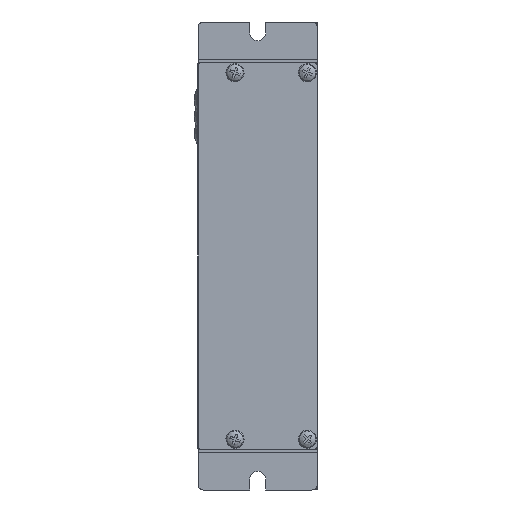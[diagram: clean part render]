
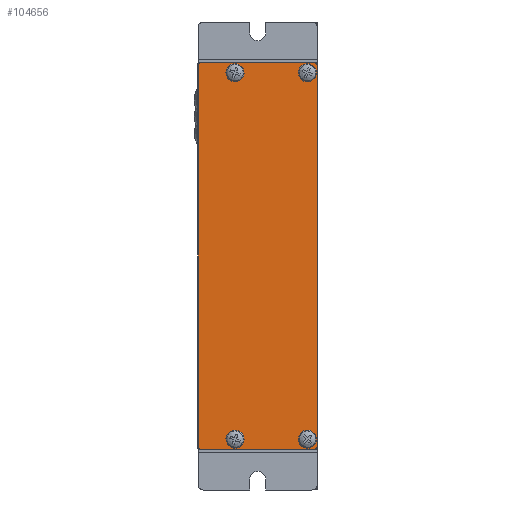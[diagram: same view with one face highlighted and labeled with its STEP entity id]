
A CAD part, left-side view. The second image highlights one B-rep face of the part: STEP entity #104656.
In plain terms, the highlighted planar face has unit normal (-1, 0, 0).
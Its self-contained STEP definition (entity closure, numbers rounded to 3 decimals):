
#2958 = ORIENTED_EDGE ( 'NONE', *, *, #60877, .T. ) ;
#4827 = FACE_BOUND ( 'NONE', #109588, .T. ) ;
#7255 = VERTEX_POINT ( 'NONE', #58329 ) ;
#7516 = DIRECTION ( 'NONE',  ( 0., -0.735, 0.678 ) ) ;
#10830 = VERTEX_POINT ( 'NONE', #19613 ) ;
#13800 = CARTESIAN_POINT ( 'NONE',  ( -12.545, -11.735, 73.54 ) ) ;
#13875 = LINE ( 'NONE', #106296, #100713 ) ;
#14937 = DIRECTION ( 'NONE',  ( -1., 0., 0. ) ) ;
#15426 = CARTESIAN_POINT ( 'NONE',  ( -12.545, 32.865, 73.54 ) ) ;
#15662 = EDGE_CURVE ( 'NONE', #139225, #111763, #28665, .T. ) ;
#15971 = DIRECTION ( 'NONE',  ( 1., 0., 0. ) ) ;
#16950 = CARTESIAN_POINT ( 'NONE',  ( -12.545, 32.865, 216.14 ) ) ;
#17381 = CARTESIAN_POINT ( 'NONE',  ( -12.545, 31.865, 216.14 ) ) ;
#19074 = ORIENTED_EDGE ( 'NONE', *, *, #144466, .T. ) ;
#19528 = CARTESIAN_POINT ( 'NONE',  ( -12.545, 19.065, 76.24 ) ) ;
#19613 = CARTESIAN_POINT ( 'NONE',  ( -12.545, 21.927, 214.623 ) ) ;
#23177 = VECTOR ( 'NONE', #94955, 1000. ) ;
#23504 = VERTEX_POINT ( 'NONE', #15426 ) ;
#23680 = CARTESIAN_POINT ( 'NONE',  ( -12.545, 10.565, 144.84 ) ) ;
#24436 = ORIENTED_EDGE ( 'NONE', *, *, #46909, .T. ) ;
#25464 = AXIS2_PLACEMENT_3D ( 'NONE', #104951, #142121, #117890 ) ;
#25561 = AXIS2_PLACEMENT_3D ( 'NONE', #19528, #55121, #31392 ) ;
#25648 = DIRECTION ( 'NONE',  ( 0., -1., 0. ) ) ;
#26882 = FACE_OUTER_BOUND ( 'NONE', #40928, .T. ) ;
#28665 = LINE ( 'NONE', #83052, #23177 ) ;
#28825 = FACE_BOUND ( 'NONE', #46419, .T. ) ;
#29930 = EDGE_CURVE ( 'NONE', #139225, #97029, #109027, .T. ) ;
#31392 = DIRECTION ( 'NONE',  ( 0., 0.924, 0.382 ) ) ;
#34186 = EDGE_CURVE ( 'NONE', #23504, #111763, #132047, .T. ) ;
#36998 = CARTESIAN_POINT ( 'NONE',  ( -12.545, -11.735, 216.14 ) ) ;
#37941 = CARTESIAN_POINT ( 'NONE',  ( -12.545, 32.865, 72.54 ) ) ;
#38723 = EDGE_CURVE ( 'NONE', #23504, #43039, #85271, .T. ) ;
#39965 = CARTESIAN_POINT ( 'NONE',  ( -12.545, -10.312, 78.341 ) ) ;
#40470 = DIRECTION ( 'NONE',  ( 0., 0., -1. ) ) ;
#40928 = EDGE_LOOP ( 'NONE', ( #46591, #104717, #54207, #52862, #151685, #76803, #98725, #24436 ) ) ;
#43039 = VERTEX_POINT ( 'NONE', #16950 ) ;
#44385 = LINE ( 'NONE', #76610, #134941 ) ;
#45424 = CIRCLE ( 'NONE', #108403, 1. ) ;
#45706 = DIRECTION ( 'NONE',  ( 0., 0., 1. ) ) ;
#46419 = EDGE_LOOP ( 'NONE', ( #19074 ) ) ;
#46591 = ORIENTED_EDGE ( 'NONE', *, *, #38723, .F. ) ;
#46898 = EDGE_CURVE ( 'NONE', #77494, #77494, #130657, .T. ) ;
#46909 = EDGE_CURVE ( 'NONE', #7255, #43039, #77006, .T. ) ;
#49435 = CARTESIAN_POINT ( 'NONE',  ( -12.545, -8.035, 213.44 ) ) ;
#52128 = EDGE_CURVE ( 'NONE', #150948, #97029, #44385, .T. ) ;
#52433 = DIRECTION ( 'NONE',  ( 0., 0., 1. ) ) ;
#52862 = ORIENTED_EDGE ( 'NONE', *, *, #29930, .T. ) ;
#54207 = ORIENTED_EDGE ( 'NONE', *, *, #15662, .F. ) ;
#54972 = DIRECTION ( 'NONE',  ( 1., 0., 0. ) ) ;
#55121 = DIRECTION ( 'NONE',  ( 1., 0., 0. ) ) ;
#58329 = CARTESIAN_POINT ( 'NONE',  ( -12.545, 31.865, 217.14 ) ) ;
#60877 = EDGE_CURVE ( 'NONE', #10830, #10830, #106775, .T. ) ;
#62131 = CARTESIAN_POINT ( 'NONE',  ( -12.545, 31.865, 72.54 ) ) ;
#62923 = EDGE_CURVE ( 'NONE', #150948, #76987, #45424, .T. ) ;
#64145 = VERTEX_POINT ( 'NONE', #120313 ) ;
#65340 = EDGE_LOOP ( 'NONE', ( #121368 ) ) ;
#68884 = DIRECTION ( 'NONE',  ( -1., 0., 0. ) ) ;
#69397 = FACE_BOUND ( 'NONE', #115971, .T. ) ;
#70871 = CARTESIAN_POINT ( 'NONE',  ( -12.545, 31.865, 73.54 ) ) ;
#72650 = DIRECTION ( 'NONE',  ( 0., 0.924, 0.382 ) ) ;
#73676 = DIRECTION ( 'NONE',  ( 1., 0., 0. ) ) ;
#73938 = CARTESIAN_POINT ( 'NONE',  ( -12.545, -10.735, 72.54 ) ) ;
#75307 = CARTESIAN_POINT ( 'NONE',  ( -12.545, 19.065, 213.44 ) ) ;
#76610 = CARTESIAN_POINT ( 'NONE',  ( -12.545, -11.735, 217.14 ) ) ;
#76803 = ORIENTED_EDGE ( 'NONE', *, *, #62923, .T. ) ;
#76987 = VERTEX_POINT ( 'NONE', #77853 ) ;
#77006 = CIRCLE ( 'NONE', #116120, 1. ) ;
#77494 = VERTEX_POINT ( 'NONE', #39965 ) ;
#77853 = CARTESIAN_POINT ( 'NONE',  ( -12.545, -10.735, 217.14 ) ) ;
#79860 = VECTOR ( 'NONE', #52433, 1000. ) ;
#81223 = AXIS2_PLACEMENT_3D ( 'NONE', #23680, #14937, #144611 ) ;
#81452 = EDGE_CURVE ( 'NONE', #7255, #76987, #13875, .T. ) ;
#81822 = DIRECTION ( 'NONE',  ( 0., 0., 1. ) ) ;
#83052 = CARTESIAN_POINT ( 'NONE',  ( -12.545, -11.735, 72.54 ) ) ;
#83781 = DIRECTION ( 'NONE',  ( -1., 0., 0. ) ) ;
#85271 = LINE ( 'NONE', #37941, #79860 ) ;
#88108 = VERTEX_POINT ( 'NONE', #121832 ) ;
#93414 = AXIS2_PLACEMENT_3D ( 'NONE', #75307, #15971, #111012 ) ;
#94955 = DIRECTION ( 'NONE',  ( 0., 1., 0. ) ) ;
#95964 = ORIENTED_EDGE ( 'NONE', *, *, #136734, .T. ) ;
#97029 = VERTEX_POINT ( 'NONE', #13800 ) ;
#98725 = ORIENTED_EDGE ( 'NONE', *, *, #81452, .F. ) ;
#99074 = FACE_BOUND ( 'NONE', #65340, .T. ) ;
#100713 = VECTOR ( 'NONE', #25648, 1000. ) ;
#104656 = ADVANCED_FACE ( 'NONE', ( #4827, #69397, #99074, #28825, #26882 ), #134248, .T. ) ;
#104717 = ORIENTED_EDGE ( 'NONE', *, *, #34186, .T. ) ;
#104951 = CARTESIAN_POINT ( 'NONE',  ( -12.545, -10.735, 73.54 ) ) ;
#106138 = DIRECTION ( 'NONE',  ( -1., 0., 0. ) ) ;
#106296 = CARTESIAN_POINT ( 'NONE',  ( -12.545, 32.865, 217.14 ) ) ;
#106775 = CIRCLE ( 'NONE', #93414, 3.097 ) ;
#108403 = AXIS2_PLACEMENT_3D ( 'NONE', #152139, #106138, #81822 ) ;
#109027 = CIRCLE ( 'NONE', #25464, 1. ) ;
#109588 = EDGE_LOOP ( 'NONE', ( #95964 ) ) ;
#111012 = DIRECTION ( 'NONE',  ( 0., 0.924, 0.382 ) ) ;
#111763 = VERTEX_POINT ( 'NONE', #62131 ) ;
#113966 = CARTESIAN_POINT ( 'NONE',  ( -12.545, -8.035, 76.24 ) ) ;
#115971 = EDGE_LOOP ( 'NONE', ( #2958 ) ) ;
#116120 = AXIS2_PLACEMENT_3D ( 'NONE', #17381, #68884, #45706 ) ;
#117890 = DIRECTION ( 'NONE',  ( 0., 0., 1. ) ) ;
#117988 = DIRECTION ( 'NONE',  ( 0., 0., 1. ) ) ;
#120313 = CARTESIAN_POINT ( 'NONE',  ( -12.545, -5.173, 214.623 ) ) ;
#121368 = ORIENTED_EDGE ( 'NONE', *, *, #46898, .T. ) ;
#121832 = CARTESIAN_POINT ( 'NONE',  ( -12.545, 21.927, 77.423 ) ) ;
#127944 = CIRCLE ( 'NONE', #25561, 3.097 ) ;
#128450 = AXIS2_PLACEMENT_3D ( 'NONE', #70871, #83781, #117988 ) ;
#130657 = CIRCLE ( 'NONE', #136873, 3.097 ) ;
#132047 = CIRCLE ( 'NONE', #128450, 1. ) ;
#134248 = PLANE ( 'NONE',  #81223 ) ;
#134941 = VECTOR ( 'NONE', #40470, 1000. ) ;
#136734 = EDGE_CURVE ( 'NONE', #64145, #64145, #139405, .T. ) ;
#136873 = AXIS2_PLACEMENT_3D ( 'NONE', #113966, #54972, #7516 ) ;
#138747 = AXIS2_PLACEMENT_3D ( 'NONE', #49435, #73676, #72650 ) ;
#139225 = VERTEX_POINT ( 'NONE', #73938 ) ;
#139405 = CIRCLE ( 'NONE', #138747, 3.097 ) ;
#142121 = DIRECTION ( 'NONE',  ( -1., 0., 0. ) ) ;
#144466 = EDGE_CURVE ( 'NONE', #88108, #88108, #127944, .T. ) ;
#144611 = DIRECTION ( 'NONE',  ( 0., 0., 1. ) ) ;
#150948 = VERTEX_POINT ( 'NONE', #36998 ) ;
#151685 = ORIENTED_EDGE ( 'NONE', *, *, #52128, .F. ) ;
#152139 = CARTESIAN_POINT ( 'NONE',  ( -12.545, -10.735, 216.14 ) ) ;
